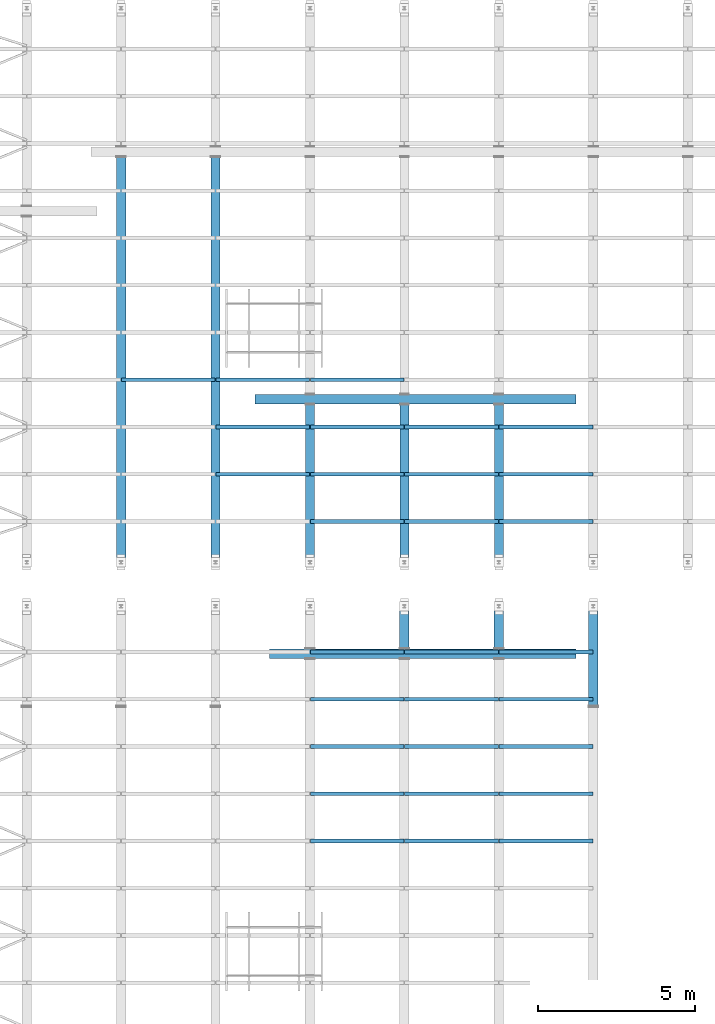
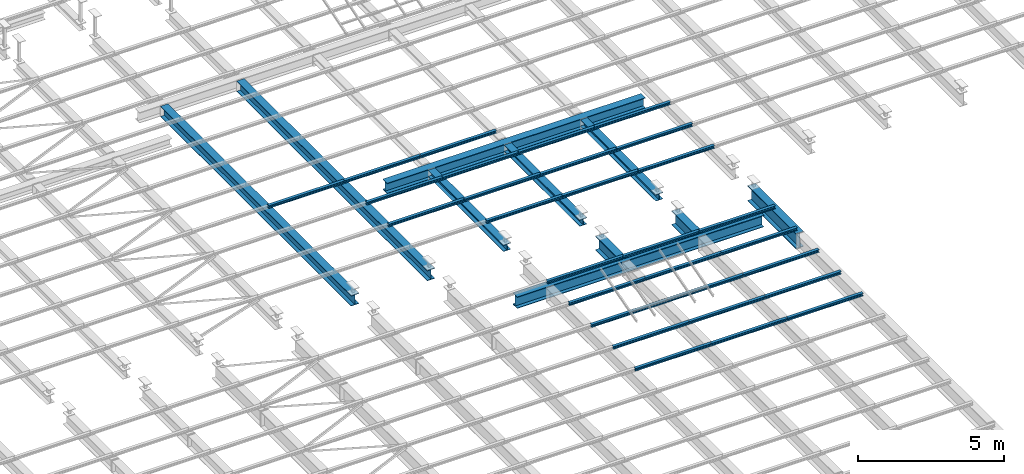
# One storey, part 59 of 139: 39 beams.
"""IFC2X3 building model written with IfcOpenShell, lengths in metres."""

from ifc_helpers import new_model, entity, si_unit, converted_unit, derived_unit, frame, origin, place, context, subcontext, project, spatial, polyline, outline, extrude, material, element, save


model = new_model("IFC2X3")

# Units and contexts
model_context = context("Model", 3, precision=1e-05, world=origin())
body_context = subcontext(model_context, "Body", "Model", "MODEL_VIEW")
ifc_project = project(units=[si_unit("LENGTHUNIT", "METRE"), si_unit("AREAUNIT", "SQUARE_METRE"), si_unit("VOLUMEUNIT", "CUBIC_METRE"), si_unit("MASSUNIT", "GRAM", prefix="KILO"), converted_unit("PLANEANGLEUNIT", "DEGREE", entity("IfcPlaneAngleMeasure", 0.0174532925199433), si_unit("PLANEANGLEUNIT", "RADIAN"), dimensions=[0, 0, 0, 0, 0, 0, 0]), derived_unit("THERMALTRANSMITTANCEUNIT", [(si_unit("POWERUNIT", "WATT"), 1), (si_unit("THERMODYNAMICTEMPERATUREUNIT", "KELVIN"), -1), (si_unit("LENGTHUNIT", "METRE"), -2)]), derived_unit("VOLUMETRICFLOWRATEUNIT", [(si_unit("LENGTHUNIT", "METRE"), 3), (converted_unit("TIMEUNIT", "hour", entity("IfcTimeMeasure", 3600.0), si_unit("TIMEUNIT", "SECOND"), dimensions=[0, 0, 1, 0, 0, 0, 0]), -1), (si_unit("LENGTHUNIT", "METRE"), -1)])], contexts=[model_context])

# Site, building, storey
site_placement = place(None, origin())
site = spatial("IfcSite", under=ifc_project, at=site_placement, Name="TWP_Speiseverteilzentrum SBW VZ II", CompositionType="ELEMENT")
building_placement = place(site_placement, origin())
building = spatial("IfcBuilding", under=site, at=building_placement, Name="Speiseverteilzentrum SBW VZ II", CompositionType="ELEMENT")
storey_placement = place(building_placement, frame((0.0, 0.0, 7.1307)))
storey = spatial("IfcBuildingStorey", under=building, at=storey_placement, Name="Wartung_FFB", CompositionType="ELEMENT", Elevation=7.1307)

# Beams
ifc_material_1 = material(Name="S235")
beam_1_placement = place(storey_placement, frame((56.7712471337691, 49.399720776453, -0.435), z_axis=(0.0, 0.0, 1.0), x_axis=(-1.22464679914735e-16, -1.0, 0.0)))
element("IfcBeam", 1, at=beam_1_placement, inside=storey, material=ifc_material_1, Name="Stahlträger", context=body_context, shape_type="SweptSolid", body=[
    extrude(outline(polyline([(-0.15, 0.245), (-0.15, 0.222), (-0.00599999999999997, 0.222), (-0.006, -0.222), (-0.15, -0.222), (-0.15, -0.245), (0.15, -0.245), (0.15, -0.222), (0.00600000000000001, -0.222), (0.00600000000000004, 0.222), (0.15, 0.222), (0.15, 0.245), (-0.15, 0.245)])), frame((0.0, 0.0, 0.0), z_axis=(0.0, 1.0, 0.0), x_axis=(-1.0, 0.0, 0.0)), (0.0, 0.0, 1.0), 9.72821238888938),
])
ifc_material_2 = material(Name="S235")
beam_2_placement = place(storey_placement, frame((56.3094595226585, 57.4796420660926, -0.41), z_axis=(0.0, 0.0, 1.0), x_axis=(-1.22464679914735e-16, -1.0, 0.0)))
element("IfcBeam", 2, at=beam_2_placement, inside=storey, material=ifc_material_2, Name="Stahlträger", context=body_context, shape_type="SweptSolid", body=[
    extrude(outline(polyline([(-0.15, 0.22), (-0.15, 0.199), (-0.00574999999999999, 0.199), (-0.00575000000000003, -0.199), (-0.15, -0.199), (-0.15, -0.22), (0.15, -0.22), (0.15, -0.199), (0.00574999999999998, -0.199), (0.00575000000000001, 0.199), (0.15, 0.199), (0.15, 0.22), (-0.15, 0.22)])), frame((0.0, 0.0, 0.0), z_axis=(0.0, 1.0, 0.0), x_axis=(-1.0, 0.0, 0.0)), (0.0, 0.0, 1.0), 10.19),
])
ifc_material_3 = material(Name="S235")
beam_3_placement = place(storey_placement, frame((52.0500000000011, 52.1500000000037, -0.41), z_axis=(0.0, 0.0, 1.0), x_axis=(1.0, -2.44929359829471e-16, 0.0)))
element("IfcBeam", 3, at=beam_3_placement, inside=storey, material=ifc_material_3, Name="Stahlträger", context=body_context, shape_type="SweptSolid", body=[
    extrude(outline(polyline([(-0.15, 0.22), (-0.15, 0.199), (-0.00574999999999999, 0.199), (-0.00575000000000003, -0.199), (-0.15, -0.199), (-0.15, -0.22), (0.15, -0.22), (0.15, -0.199), (0.00574999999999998, -0.199), (0.00575000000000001, 0.199), (0.15, 0.199), (0.15, 0.22), (-0.15, 0.22)])), frame((0.0, 0.0, 0.0), z_axis=(0.0, 1.0, 0.0), x_axis=(-1.0, 0.0, 0.0)), (0.0, 0.0, 1.0), 13.0195685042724),
])
ifc_material_4 = material(Name="S235")
beam_4_placement = place(storey_placement, frame((55.0500000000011, 52.1500000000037, -0.41), z_axis=(0.0, 0.0, 1.0), x_axis=(1.0, -2.44929359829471e-16, 0.0)))
element("IfcBeam", 4, at=beam_4_placement, inside=storey, material=ifc_material_4, Name="Stahlträger", context=body_context, shape_type="SweptSolid", body=[
    extrude(outline(polyline([(-0.15, 0.22), (-0.15, 0.199), (-0.00574999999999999, 0.199), (-0.00575000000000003, -0.199), (-0.15, -0.199), (-0.15, -0.22), (0.15, -0.22), (0.15, -0.199), (0.00574999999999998, -0.199), (0.00575000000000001, 0.199), (0.15, 0.199), (0.15, 0.22), (-0.15, 0.22)])), frame((0.0, 0.0, 0.0), z_axis=(0.0, 1.0, 0.0), x_axis=(-1.0, 0.0, 0.0)), (0.0, 0.0, 1.0), 13.0195685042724),
])
ifc_material_5 = material(Name="S235")
beam_5_placement = place(storey_placement, frame((58.0500000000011, 57.3046420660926, -0.325), z_axis=(0.0, 0.0, 1.0), x_axis=(-1.0, 0.0, 0.0)))
element("IfcBeam", 5, at=beam_5_placement, inside=storey, material=ifc_material_5, Name="Stahlträger", context=body_context, shape_type="SweptSolid", body=[
    extrude(outline(polyline([(-0.14, 0.135), (-0.14, 0.122), (-0.00400000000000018, 0.122), (-0.00400000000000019, -0.122), (-0.14, -0.122), (-0.14, -0.135), (0.14, -0.135), (0.14, -0.122), (0.00399999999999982, -0.122), (0.00399999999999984, 0.122), (0.14, 0.122), (0.14, 0.135), (-0.14, 0.135)])), frame((0.0, 0.0, 0.0), z_axis=(0.0, 1.0, 0.0), x_axis=(-1.0, 0.0, 0.0)), (0.0, 0.0, 1.0), 5.15464206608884),
])
ifc_material_6 = material(Name="S235")
beam_6_placement = place(storey_placement, frame((61.0500000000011, 57.3046420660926, -0.325), z_axis=(0.0, 0.0, 1.0), x_axis=(-1.0, 0.0, 0.0)))
element("IfcBeam", 6, at=beam_6_placement, inside=storey, material=ifc_material_6, Name="Stahlträger", context=body_context, shape_type="SweptSolid", body=[
    extrude(outline(polyline([(-0.14, 0.135), (-0.14, 0.122), (-0.00400000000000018, 0.122), (-0.00400000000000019, -0.122), (-0.14, -0.122), (-0.14, -0.135), (0.14, -0.135), (0.14, -0.122), (0.00399999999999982, -0.122), (0.00399999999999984, 0.122), (0.14, 0.122), (0.14, 0.135), (-0.14, 0.135)])), frame((0.0, 0.0, 0.0), z_axis=(0.0, 1.0, 0.0), x_axis=(-1.0, 0.0, 0.0)), (0.0, 0.0, 1.0), 5.15464206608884),
])
ifc_material_7 = material(Name="S235")
beam_7_placement = place(storey_placement, frame((64.0500000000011, 57.3046420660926, -0.325), z_axis=(0.0, 0.0, 1.0), x_axis=(-1.0, 0.0, 0.0)))
element("IfcBeam", 7, at=beam_7_placement, inside=storey, material=ifc_material_7, Name="Stahlträger", context=body_context, shape_type="SweptSolid", body=[
    extrude(outline(polyline([(-0.14, 0.135), (-0.14, 0.122), (-0.00400000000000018, 0.122), (-0.00400000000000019, -0.122), (-0.14, -0.122), (-0.14, -0.135), (0.14, -0.135), (0.14, -0.122), (0.00399999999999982, -0.122), (0.00399999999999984, 0.122), (0.14, 0.122), (0.14, 0.135), (-0.14, 0.135)])), frame((0.0, 0.0, 0.0), z_axis=(0.0, 1.0, 0.0), x_axis=(-1.0, 0.0, 0.0)), (0.0, 0.0, 1.0), 5.15464206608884),
])
ifc_material_8 = material(Name="S235")
beam_8_placement = place(storey_placement, frame((67.0500000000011, 51.0500000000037, -0.51), z_axis=(0.0, 0.0, 1.0), x_axis=(-1.0, 0.0, 0.0)))
element("IfcBeam", 8, at=beam_8_placement, inside=storey, material=ifc_material_8, Name="Stahlträger", context=body_context, shape_type="SweptSolid", body=[
    extrude(outline(polyline([(-0.15, 0.32), (-0.15, 0.294), (-0.00675000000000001, 0.294), (-0.00675000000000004, -0.294), (-0.15, -0.294), (-0.15, -0.32), (0.15, -0.32), (0.15, -0.294), (0.00674999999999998, -0.294), (0.00675000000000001, 0.294), (0.15, 0.294), (0.15, 0.32), (-0.15, 0.32)])), frame((0.0, 0.0, 0.0), z_axis=(0.0, 1.0, 0.0), x_axis=(-1.0, 0.0, 0.0)), (0.0, 0.0, 1.0), 3.2979257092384),
])
ifc_material_9 = material(Name="S235")
beam_9_placement = place(storey_placement, frame((61.0500000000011, 51.0500000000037, -0.485), z_axis=(0.0, 0.0, 1.0), x_axis=(-1.0, 0.0, 0.0)))
element("IfcBeam", 9, at=beam_9_placement, inside=storey, material=ifc_material_9, Name="Stahlträger", context=body_context, shape_type="SweptSolid", body=[
    extrude(outline(polyline([(-0.15, 0.295), (-0.15, 0.27), (-0.0065, 0.27), (-0.00650000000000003, -0.27), (-0.15, -0.27), (-0.15, -0.295), (0.15, -0.295), (0.15, -0.27), (0.00649999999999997, -0.27), (0.00650000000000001, 0.27), (0.15, 0.27), (0.15, 0.295), (-0.15, 0.295)])), frame((0.0, 0.0, 0.0), z_axis=(0.0, 1.0, 0.0), x_axis=(-1.0, 0.0, 0.0)), (0.0, 0.0, 1.0), 1.47527922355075),
])
ifc_material_10 = material(Name="S235")
beam_10_placement = place(storey_placement, frame((64.0500000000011, 51.0500000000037, -0.485), z_axis=(0.0, 0.0, 1.0), x_axis=(-1.0, 0.0, 0.0)))
element("IfcBeam", 10, at=beam_10_placement, inside=storey, material=ifc_material_10, Name="Stahlträger", context=body_context, shape_type="SweptSolid", body=[
    extrude(outline(polyline([(-0.15, 0.295), (-0.15, 0.27), (-0.0065, 0.27), (-0.00650000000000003, -0.27), (-0.15, -0.27), (-0.15, -0.295), (0.15, -0.295), (0.15, -0.27), (0.00649999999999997, -0.27), (0.00650000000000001, 0.27), (0.15, 0.27), (0.15, 0.295), (-0.15, 0.295)])), frame((0.0, 0.0, 0.0), z_axis=(0.0, 1.0, 0.0), x_axis=(-1.0, 0.0, 0.0)), (0.0, 0.0, 1.0), 1.47527922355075),
])
ifc_material_11 = material(Name="S235")
beam_11_placement = place(storey_placement, frame((52.0600000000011, 58.1011263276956, -0.133), z_axis=(0.0, 0.0, 1.0), x_axis=(0.0, -1.0, 0.0)))
element("IfcBeam", 11, at=beam_11_placement, inside=storey, material=ifc_material_11, Name="Nebenträger", context=body_context, shape_type="SweptSolid", body=[
    extrude(outline(polyline([(-0.06, 0.0570000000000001), (-0.06, 0.0490000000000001), (-0.00249999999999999, 0.0490000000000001), (-0.0025, -0.0489999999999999), (-0.06, -0.0489999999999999), (-0.06, -0.0569999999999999), (0.06, -0.0569999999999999), (0.06, -0.0489999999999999), (0.0025, -0.0489999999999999), (0.00250000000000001, 0.0490000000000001), (0.06, 0.0490000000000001), (0.06, 0.0570000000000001), (-0.06, 0.0570000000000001)])), frame((0.0, 0.0, 0.0), z_axis=(0.0, 1.0, 0.0), x_axis=(-1.0, 0.0, 0.0)), (0.0, 0.0, 1.0), 2.98),
])
ifc_material_12 = material(Name="S235")
beam_12_placement = place(storey_placement, frame((55.0600000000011, 58.1011263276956, -0.133), z_axis=(0.0, 0.0, 1.0), x_axis=(0.0, -1.0, 0.0)))
element("IfcBeam", 12, at=beam_12_placement, inside=storey, material=ifc_material_12, Name="Nebenträger", context=body_context, shape_type="SweptSolid", body=[
    extrude(outline(polyline([(-0.06, 0.0570000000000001), (-0.06, 0.0490000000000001), (-0.00249999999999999, 0.0490000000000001), (-0.0025, -0.0489999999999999), (-0.06, -0.0489999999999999), (-0.06, -0.0569999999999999), (0.06, -0.0569999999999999), (0.06, -0.0489999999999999), (0.0025, -0.0489999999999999), (0.00250000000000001, 0.0490000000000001), (0.06, 0.0490000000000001), (0.06, 0.0570000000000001), (-0.06, 0.0570000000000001)])), frame((0.0, 0.0, 0.0), z_axis=(0.0, 1.0, 0.0), x_axis=(-1.0, 0.0, 0.0)), (0.0, 0.0, 1.0), 2.98),
])
ifc_material_13 = material(Name="S235")
beam_13_placement = place(storey_placement, frame((58.0600000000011, 58.1011263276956, -0.133), z_axis=(0.0, 0.0, 1.0), x_axis=(0.0, -1.0, 0.0)))
element("IfcBeam", 13, at=beam_13_placement, inside=storey, material=ifc_material_13, Name="Nebenträger", context=body_context, shape_type="SweptSolid", body=[
    extrude(outline(polyline([(-0.06, 0.0570000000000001), (-0.06, 0.0490000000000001), (-0.00249999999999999, 0.0490000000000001), (-0.0025, -0.0489999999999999), (-0.06, -0.0489999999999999), (-0.06, -0.0569999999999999), (0.06, -0.0569999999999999), (0.06, -0.0489999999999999), (0.0025, -0.0489999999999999), (0.00250000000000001, 0.0490000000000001), (0.06, 0.0490000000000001), (0.06, 0.0570000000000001), (-0.06, 0.0570000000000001)])), frame((0.0, 0.0, 0.0), z_axis=(0.0, 1.0, 0.0), x_axis=(-1.0, 0.0, 0.0)), (0.0, 0.0, 1.0), 2.98),
])
ifc_material_14 = material(Name="S235")
beam_14_placement = place(storey_placement, frame((64.0600000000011, 56.6011263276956, -0.133), z_axis=(0.0, 0.0, 1.0), x_axis=(0.0, -1.0, 0.0)))
element("IfcBeam", 14, at=beam_14_placement, inside=storey, material=ifc_material_14, Name="Nebenträger", context=body_context, shape_type="SweptSolid", body=[
    extrude(outline(polyline([(-0.06, 0.0570000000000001), (-0.06, 0.0490000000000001), (-0.00249999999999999, 0.0490000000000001), (-0.0025, -0.0489999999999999), (-0.06, -0.0489999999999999), (-0.06, -0.0569999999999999), (0.06, -0.0569999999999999), (0.06, -0.0489999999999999), (0.0025, -0.0489999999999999), (0.00250000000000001, 0.0490000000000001), (0.06, 0.0490000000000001), (0.06, 0.0570000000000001), (-0.06, 0.0570000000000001)])), frame((0.0, 0.0, 0.0), z_axis=(0.0, 1.0, 0.0), x_axis=(-1.0, 0.0, 0.0)), (0.0, 0.0, 1.0), 2.98000000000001),
])
ifc_material_15 = material(Name="S235")
beam_15_placement = place(storey_placement, frame((55.0600000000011, 56.6011263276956, -0.133), z_axis=(0.0, 0.0, 1.0), x_axis=(0.0, -1.0, 0.0)))
element("IfcBeam", 15, at=beam_15_placement, inside=storey, material=ifc_material_15, Name="Nebenträger", context=body_context, shape_type="SweptSolid", body=[
    extrude(outline(polyline([(-0.06, 0.0570000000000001), (-0.06, 0.0490000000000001), (-0.00249999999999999, 0.0490000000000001), (-0.0025, -0.0489999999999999), (-0.06, -0.0489999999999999), (-0.06, -0.0569999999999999), (0.06, -0.0569999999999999), (0.06, -0.0489999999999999), (0.0025, -0.0489999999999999), (0.00250000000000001, 0.0490000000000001), (0.06, 0.0490000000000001), (0.06, 0.0570000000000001), (-0.06, 0.0570000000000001)])), frame((0.0, 0.0, 0.0), z_axis=(0.0, 1.0, 0.0), x_axis=(-1.0, 0.0, 0.0)), (0.0, 0.0, 1.0), 2.98),
])
ifc_material_16 = material(Name="S235")
beam_16_placement = place(storey_placement, frame((58.0600000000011, 56.6011263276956, -0.133), z_axis=(0.0, 0.0, 1.0), x_axis=(0.0, -1.0, 0.0)))
element("IfcBeam", 16, at=beam_16_placement, inside=storey, material=ifc_material_16, Name="Nebenträger", context=body_context, shape_type="SweptSolid", body=[
    extrude(outline(polyline([(-0.06, 0.0570000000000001), (-0.06, 0.0490000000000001), (-0.00249999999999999, 0.0490000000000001), (-0.0025, -0.0489999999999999), (-0.06, -0.0489999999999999), (-0.06, -0.0569999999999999), (0.06, -0.0569999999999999), (0.06, -0.0489999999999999), (0.0025, -0.0489999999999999), (0.00250000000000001, 0.0490000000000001), (0.06, 0.0490000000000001), (0.06, 0.0570000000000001), (-0.06, 0.0570000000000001)])), frame((0.0, 0.0, 0.0), z_axis=(0.0, 1.0, 0.0), x_axis=(-1.0, 0.0, 0.0)), (0.0, 0.0, 1.0), 2.98),
])
ifc_material_17 = material(Name="S235")
beam_17_placement = place(storey_placement, frame((61.0600000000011, 56.6011263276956, -0.133), z_axis=(0.0, 0.0, 1.0), x_axis=(0.0, -1.0, 0.0)))
element("IfcBeam", 17, at=beam_17_placement, inside=storey, material=ifc_material_17, Name="Nebenträger", context=body_context, shape_type="SweptSolid", body=[
    extrude(outline(polyline([(-0.06, 0.0570000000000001), (-0.06, 0.0490000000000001), (-0.00249999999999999, 0.0490000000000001), (-0.0025, -0.0489999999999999), (-0.06, -0.0489999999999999), (-0.06, -0.0569999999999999), (0.06, -0.0569999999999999), (0.06, -0.0489999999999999), (0.0025, -0.0489999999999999), (0.00250000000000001, 0.0490000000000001), (0.06, 0.0490000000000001), (0.06, 0.0570000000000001), (-0.06, 0.0570000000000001)])), frame((0.0, 0.0, 0.0), z_axis=(0.0, 1.0, 0.0), x_axis=(-1.0, 0.0, 0.0)), (0.0, 0.0, 1.0), 2.98),
])
ifc_material_18 = material(Name="S235")
beam_18_placement = place(storey_placement, frame((64.0600000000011, 55.1011263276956, -0.133), z_axis=(0.0, 0.0, 1.0), x_axis=(0.0, -1.0, 0.0)))
element("IfcBeam", 18, at=beam_18_placement, inside=storey, material=ifc_material_18, Name="Nebenträger", context=body_context, shape_type="SweptSolid", body=[
    extrude(outline(polyline([(-0.06, 0.0570000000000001), (-0.06, 0.0490000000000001), (-0.00249999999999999, 0.0490000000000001), (-0.0025, -0.0489999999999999), (-0.06, -0.0489999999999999), (-0.06, -0.0569999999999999), (0.06, -0.0569999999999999), (0.06, -0.0489999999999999), (0.0025, -0.0489999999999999), (0.00250000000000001, 0.0490000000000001), (0.06, 0.0490000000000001), (0.06, 0.0570000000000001), (-0.06, 0.0570000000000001)])), frame((0.0, 0.0, 0.0), z_axis=(0.0, 1.0, 0.0), x_axis=(-1.0, 0.0, 0.0)), (0.0, 0.0, 1.0), 2.98000000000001),
])
ifc_material_19 = material(Name="S235")
beam_19_placement = place(storey_placement, frame((55.0600000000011, 55.1011263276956, -0.133), z_axis=(0.0, 0.0, 1.0), x_axis=(0.0, -1.0, 0.0)))
element("IfcBeam", 19, at=beam_19_placement, inside=storey, material=ifc_material_19, Name="Nebenträger", context=body_context, shape_type="SweptSolid", body=[
    extrude(outline(polyline([(-0.06, 0.0570000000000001), (-0.06, 0.0490000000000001), (-0.00249999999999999, 0.0490000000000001), (-0.0025, -0.0489999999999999), (-0.06, -0.0489999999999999), (-0.06, -0.0569999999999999), (0.06, -0.0569999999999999), (0.06, -0.0489999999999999), (0.0025, -0.0489999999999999), (0.00250000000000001, 0.0490000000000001), (0.06, 0.0490000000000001), (0.06, 0.0570000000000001), (-0.06, 0.0570000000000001)])), frame((0.0, 0.0, 0.0), z_axis=(0.0, 1.0, 0.0), x_axis=(-1.0, 0.0, 0.0)), (0.0, 0.0, 1.0), 2.98),
])
ifc_material_20 = material(Name="S235")
beam_20_placement = place(storey_placement, frame((58.0600000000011, 55.1011263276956, -0.133), z_axis=(0.0, 0.0, 1.0), x_axis=(0.0, -1.0, 0.0)))
element("IfcBeam", 20, at=beam_20_placement, inside=storey, material=ifc_material_20, Name="Nebenträger", context=body_context, shape_type="SweptSolid", body=[
    extrude(outline(polyline([(-0.06, 0.0570000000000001), (-0.06, 0.0490000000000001), (-0.00249999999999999, 0.0490000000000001), (-0.0025, -0.0489999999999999), (-0.06, -0.0489999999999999), (-0.06, -0.0569999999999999), (0.06, -0.0569999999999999), (0.06, -0.0489999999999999), (0.0025, -0.0489999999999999), (0.00250000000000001, 0.0490000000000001), (0.06, 0.0490000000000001), (0.06, 0.0570000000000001), (-0.06, 0.0570000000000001)])), frame((0.0, 0.0, 0.0), z_axis=(0.0, 1.0, 0.0), x_axis=(-1.0, 0.0, 0.0)), (0.0, 0.0, 1.0), 2.98),
])
ifc_material_21 = material(Name="S235")
beam_21_placement = place(storey_placement, frame((61.0600000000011, 55.1011263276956, -0.133), z_axis=(0.0, 0.0, 1.0), x_axis=(0.0, -1.0, 0.0)))
element("IfcBeam", 21, at=beam_21_placement, inside=storey, material=ifc_material_21, Name="Nebenträger", context=body_context, shape_type="SweptSolid", body=[
    extrude(outline(polyline([(-0.06, 0.0570000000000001), (-0.06, 0.0490000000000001), (-0.00249999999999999, 0.0490000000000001), (-0.0025, -0.0489999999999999), (-0.06, -0.0489999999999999), (-0.06, -0.0569999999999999), (0.06, -0.0569999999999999), (0.06, -0.0489999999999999), (0.0025, -0.0489999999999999), (0.00250000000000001, 0.0490000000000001), (0.06, 0.0490000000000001), (0.06, 0.0570000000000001), (-0.06, 0.0570000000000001)])), frame((0.0, 0.0, 0.0), z_axis=(0.0, 1.0, 0.0), x_axis=(-1.0, 0.0, 0.0)), (0.0, 0.0, 1.0), 2.98),
])
ifc_material_22 = material(Name="S235")
beam_22_placement = place(storey_placement, frame((64.0600000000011, 53.6011263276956, -0.133), z_axis=(0.0, 0.0, 1.0), x_axis=(0.0, -1.0, 0.0)))
element("IfcBeam", 22, at=beam_22_placement, inside=storey, material=ifc_material_22, Name="Nebenträger", context=body_context, shape_type="SweptSolid", body=[
    extrude(outline(polyline([(-0.06, 0.0570000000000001), (-0.06, 0.0490000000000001), (-0.00249999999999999, 0.0490000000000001), (-0.0025, -0.0489999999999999), (-0.06, -0.0489999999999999), (-0.06, -0.0569999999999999), (0.06, -0.0569999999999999), (0.06, -0.0489999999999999), (0.0025, -0.0489999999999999), (0.00250000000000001, 0.0490000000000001), (0.06, 0.0490000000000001), (0.06, 0.0570000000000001), (-0.06, 0.0570000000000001)])), frame((0.0, 0.0, 0.0), z_axis=(0.0, 1.0, 0.0), x_axis=(-1.0, 0.0, 0.0)), (0.0, 0.0, 1.0), 2.98000000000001),
])
ifc_material_23 = material(Name="S235")
beam_23_placement = place(storey_placement, frame((58.0600000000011, 53.6011263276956, -0.133), z_axis=(0.0, 0.0, 1.0), x_axis=(0.0, -1.0, 0.0)))
element("IfcBeam", 23, at=beam_23_placement, inside=storey, material=ifc_material_23, Name="Nebenträger", context=body_context, shape_type="SweptSolid", body=[
    extrude(outline(polyline([(-0.06, 0.0570000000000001), (-0.06, 0.0490000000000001), (-0.00249999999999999, 0.0490000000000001), (-0.0025, -0.0489999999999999), (-0.06, -0.0489999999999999), (-0.06, -0.0569999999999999), (0.06, -0.0569999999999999), (0.06, -0.0489999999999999), (0.0025, -0.0489999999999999), (0.00250000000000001, 0.0490000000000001), (0.06, 0.0490000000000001), (0.06, 0.0570000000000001), (-0.06, 0.0570000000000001)])), frame((0.0, 0.0, 0.0), z_axis=(0.0, 1.0, 0.0), x_axis=(-1.0, 0.0, 0.0)), (0.0, 0.0, 1.0), 2.98),
])
ifc_material_24 = material(Name="S235")
beam_24_placement = place(storey_placement, frame((61.0600000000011, 53.6011263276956, -0.133), z_axis=(0.0, 0.0, 1.0), x_axis=(0.0, -1.0, 0.0)))
element("IfcBeam", 24, at=beam_24_placement, inside=storey, material=ifc_material_24, Name="Nebenträger", context=body_context, shape_type="SweptSolid", body=[
    extrude(outline(polyline([(-0.06, 0.0570000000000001), (-0.06, 0.0490000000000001), (-0.00249999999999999, 0.0490000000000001), (-0.0025, -0.0489999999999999), (-0.06, -0.0489999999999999), (-0.06, -0.0569999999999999), (0.06, -0.0569999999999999), (0.06, -0.0489999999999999), (0.0025, -0.0489999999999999), (0.00250000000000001, 0.0490000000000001), (0.06, 0.0490000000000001), (0.06, 0.0570000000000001), (-0.06, 0.0570000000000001)])), frame((0.0, 0.0, 0.0), z_axis=(0.0, 1.0, 0.0), x_axis=(-1.0, 0.0, 0.0)), (0.0, 0.0, 1.0), 2.98),
])
ifc_material_25 = material(Name="S235")
beam_25_placement = place(storey_placement, frame((64.0600000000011, 49.4500000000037, -0.133), z_axis=(0.0, 0.0, 1.0), x_axis=(0.0, -1.0, 0.0)))
element("IfcBeam", 25, at=beam_25_placement, inside=storey, material=ifc_material_25, Name="Nebenträger", context=body_context, shape_type="SweptSolid", body=[
    extrude(outline(polyline([(-0.06, 0.0570000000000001), (-0.06, 0.0490000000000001), (-0.00249999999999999, 0.0490000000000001), (-0.0025, -0.0489999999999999), (-0.06, -0.0489999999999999), (-0.06, -0.0569999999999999), (0.06, -0.0569999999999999), (0.06, -0.0489999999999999), (0.0025, -0.0489999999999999), (0.00250000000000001, 0.0490000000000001), (0.06, 0.0490000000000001), (0.06, 0.0570000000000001), (-0.06, 0.0570000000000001)])), frame((0.0, 0.0, 0.0), z_axis=(0.0, 1.0, 0.0), x_axis=(-1.0, 0.0, 0.0)), (0.0, 0.0, 1.0), 2.98000000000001),
])
ifc_material_26 = material(Name="S235")
beam_26_placement = place(storey_placement, frame((58.0600000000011, 49.4500000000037, -0.133), z_axis=(0.0, 0.0, 1.0), x_axis=(0.0, -1.0, 0.0)))
element("IfcBeam", 26, at=beam_26_placement, inside=storey, material=ifc_material_26, Name="Nebenträger", context=body_context, shape_type="SweptSolid", body=[
    extrude(outline(polyline([(-0.06, 0.0570000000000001), (-0.06, 0.0490000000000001), (-0.00249999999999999, 0.0490000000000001), (-0.0025, -0.0489999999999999), (-0.06, -0.0489999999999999), (-0.06, -0.0569999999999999), (0.06, -0.0569999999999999), (0.06, -0.0489999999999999), (0.0025, -0.0489999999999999), (0.00250000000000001, 0.0490000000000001), (0.06, 0.0490000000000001), (0.06, 0.0570000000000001), (-0.06, 0.0570000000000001)])), frame((0.0, 0.0, 0.0), z_axis=(0.0, 1.0, 0.0), x_axis=(-1.0, 0.0, 0.0)), (0.0, 0.0, 1.0), 2.98),
])
ifc_material_27 = material(Name="S235")
beam_27_placement = place(storey_placement, frame((61.0600000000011, 49.4500000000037, -0.133), z_axis=(0.0, 0.0, 1.0), x_axis=(0.0, -1.0, 0.0)))
element("IfcBeam", 27, at=beam_27_placement, inside=storey, material=ifc_material_27, Name="Nebenträger", context=body_context, shape_type="SweptSolid", body=[
    extrude(outline(polyline([(-0.06, 0.0570000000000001), (-0.06, 0.0490000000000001), (-0.00249999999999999, 0.0490000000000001), (-0.0025, -0.0489999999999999), (-0.06, -0.0489999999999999), (-0.06, -0.0569999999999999), (0.06, -0.0569999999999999), (0.06, -0.0489999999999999), (0.0025, -0.0489999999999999), (0.00250000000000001, 0.0490000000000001), (0.06, 0.0490000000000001), (0.06, 0.0570000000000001), (-0.06, 0.0570000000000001)])), frame((0.0, 0.0, 0.0), z_axis=(0.0, 1.0, 0.0), x_axis=(-1.0, 0.0, 0.0)), (0.0, 0.0, 1.0), 2.98),
])
ifc_material_28 = material(Name="S235")
beam_28_placement = place(storey_placement, frame((64.0600000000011, 47.9500000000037, -0.133), z_axis=(0.0, 0.0, 1.0), x_axis=(0.0, -1.0, 0.0)))
element("IfcBeam", 28, at=beam_28_placement, inside=storey, material=ifc_material_28, Name="Nebenträger", context=body_context, shape_type="SweptSolid", body=[
    extrude(outline(polyline([(-0.06, 0.0570000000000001), (-0.06, 0.0490000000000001), (-0.00249999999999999, 0.0490000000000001), (-0.0025, -0.0489999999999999), (-0.06, -0.0489999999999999), (-0.06, -0.0569999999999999), (0.06, -0.0569999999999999), (0.06, -0.0489999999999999), (0.0025, -0.0489999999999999), (0.00250000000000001, 0.0490000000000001), (0.06, 0.0490000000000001), (0.06, 0.0570000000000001), (-0.06, 0.0570000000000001)])), frame((0.0, 0.0, 0.0), z_axis=(0.0, 1.0, 0.0), x_axis=(-1.0, 0.0, 0.0)), (0.0, 0.0, 1.0), 2.98000000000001),
])
ifc_material_29 = material(Name="S235")
beam_29_placement = place(storey_placement, frame((58.0600000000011, 47.9500000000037, -0.133), z_axis=(0.0, 0.0, 1.0), x_axis=(0.0, -1.0, 0.0)))
element("IfcBeam", 29, at=beam_29_placement, inside=storey, material=ifc_material_29, Name="Nebenträger", context=body_context, shape_type="SweptSolid", body=[
    extrude(outline(polyline([(-0.06, 0.0570000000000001), (-0.06, 0.0490000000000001), (-0.00249999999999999, 0.0490000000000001), (-0.0025, -0.0489999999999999), (-0.06, -0.0489999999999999), (-0.06, -0.0569999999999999), (0.06, -0.0569999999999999), (0.06, -0.0489999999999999), (0.0025, -0.0489999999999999), (0.00250000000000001, 0.0490000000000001), (0.06, 0.0490000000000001), (0.06, 0.0570000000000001), (-0.06, 0.0570000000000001)])), frame((0.0, 0.0, 0.0), z_axis=(0.0, 1.0, 0.0), x_axis=(-1.0, 0.0, 0.0)), (0.0, 0.0, 1.0), 2.98),
])
ifc_material_30 = material(Name="S235")
beam_30_placement = place(storey_placement, frame((61.0600000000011, 47.9500000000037, -0.133), z_axis=(0.0, 0.0, 1.0), x_axis=(0.0, -1.0, 0.0)))
element("IfcBeam", 30, at=beam_30_placement, inside=storey, material=ifc_material_30, Name="Nebenträger", context=body_context, shape_type="SweptSolid", body=[
    extrude(outline(polyline([(-0.06, 0.0570000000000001), (-0.06, 0.0490000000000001), (-0.00249999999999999, 0.0490000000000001), (-0.0025, -0.0489999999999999), (-0.06, -0.0489999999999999), (-0.06, -0.0569999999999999), (0.06, -0.0569999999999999), (0.06, -0.0489999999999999), (0.0025, -0.0489999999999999), (0.00250000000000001, 0.0490000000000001), (0.06, 0.0490000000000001), (0.06, 0.0570000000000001), (-0.06, 0.0570000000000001)])), frame((0.0, 0.0, 0.0), z_axis=(0.0, 1.0, 0.0), x_axis=(-1.0, 0.0, 0.0)), (0.0, 0.0, 1.0), 2.98),
])
ifc_material_31 = material(Name="S235")
beam_31_placement = place(storey_placement, frame((64.0600000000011, 46.4500000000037, -0.133), z_axis=(0.0, 0.0, 1.0), x_axis=(0.0, -1.0, 0.0)))
element("IfcBeam", 31, at=beam_31_placement, inside=storey, material=ifc_material_31, Name="Nebenträger", context=body_context, shape_type="SweptSolid", body=[
    extrude(outline(polyline([(-0.06, 0.0570000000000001), (-0.06, 0.0490000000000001), (-0.00249999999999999, 0.0490000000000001), (-0.0025, -0.0489999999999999), (-0.06, -0.0489999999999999), (-0.06, -0.0569999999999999), (0.06, -0.0569999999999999), (0.06, -0.0489999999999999), (0.0025, -0.0489999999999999), (0.00250000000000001, 0.0490000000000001), (0.06, 0.0490000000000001), (0.06, 0.0570000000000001), (-0.06, 0.0570000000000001)])), frame((0.0, 0.0, 0.0), z_axis=(0.0, 1.0, 0.0), x_axis=(-1.0, 0.0, 0.0)), (0.0, 0.0, 1.0), 2.98000000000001),
])
ifc_material_32 = material(Name="S235")
beam_32_placement = place(storey_placement, frame((58.0600000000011, 46.4500000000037, -0.133), z_axis=(0.0, 0.0, 1.0), x_axis=(0.0, -1.0, 0.0)))
element("IfcBeam", 32, at=beam_32_placement, inside=storey, material=ifc_material_32, Name="Nebenträger", context=body_context, shape_type="SweptSolid", body=[
    extrude(outline(polyline([(-0.06, 0.0570000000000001), (-0.06, 0.0490000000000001), (-0.00249999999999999, 0.0490000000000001), (-0.0025, -0.0489999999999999), (-0.06, -0.0489999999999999), (-0.06, -0.0569999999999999), (0.06, -0.0569999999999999), (0.06, -0.0489999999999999), (0.0025, -0.0489999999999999), (0.00250000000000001, 0.0490000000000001), (0.06, 0.0490000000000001), (0.06, 0.0570000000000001), (-0.06, 0.0570000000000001)])), frame((0.0, 0.0, 0.0), z_axis=(0.0, 1.0, 0.0), x_axis=(-1.0, 0.0, 0.0)), (0.0, 0.0, 1.0), 2.98),
])
ifc_material_33 = material(Name="S235")
beam_33_placement = place(storey_placement, frame((61.0600000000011, 46.4500000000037, -0.133), z_axis=(0.0, 0.0, 1.0), x_axis=(0.0, -1.0, 0.0)))
element("IfcBeam", 33, at=beam_33_placement, inside=storey, material=ifc_material_33, Name="Nebenträger", context=body_context, shape_type="SweptSolid", body=[
    extrude(outline(polyline([(-0.06, 0.0570000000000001), (-0.06, 0.0490000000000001), (-0.00249999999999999, 0.0490000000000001), (-0.0025, -0.0489999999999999), (-0.06, -0.0489999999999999), (-0.06, -0.0569999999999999), (0.06, -0.0569999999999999), (0.06, -0.0489999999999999), (0.0025, -0.0489999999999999), (0.00250000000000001, 0.0490000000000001), (0.06, 0.0490000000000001), (0.06, 0.0570000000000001), (-0.06, 0.0570000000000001)])), frame((0.0, 0.0, 0.0), z_axis=(0.0, 1.0, 0.0), x_axis=(-1.0, 0.0, 0.0)), (0.0, 0.0, 1.0), 2.98),
])
ifc_material_34 = material(Name="S235")
beam_34_placement = place(storey_placement, frame((64.0600000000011, 44.9500000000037, -0.133), z_axis=(0.0, 0.0, 1.0), x_axis=(0.0, -1.0, 0.0)))
element("IfcBeam", 34, at=beam_34_placement, inside=storey, material=ifc_material_34, Name="Nebenträger", context=body_context, shape_type="SweptSolid", body=[
    extrude(outline(polyline([(-0.06, 0.0570000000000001), (-0.06, 0.0490000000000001), (-0.00249999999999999, 0.0490000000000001), (-0.0025, -0.0489999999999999), (-0.06, -0.0489999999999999), (-0.06, -0.0569999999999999), (0.06, -0.0569999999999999), (0.06, -0.0489999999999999), (0.0025, -0.0489999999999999), (0.00250000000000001, 0.0490000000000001), (0.06, 0.0490000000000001), (0.06, 0.0570000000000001), (-0.06, 0.0570000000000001)])), frame((0.0, 0.0, 0.0), z_axis=(0.0, 1.0, 0.0), x_axis=(-1.0, 0.0, 0.0)), (0.0, 0.0, 1.0), 2.98000000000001),
])
ifc_material_35 = material(Name="S235")
beam_35_placement = place(storey_placement, frame((58.0600000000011, 44.9500000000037, -0.133), z_axis=(0.0, 0.0, 1.0), x_axis=(0.0, -1.0, 0.0)))
element("IfcBeam", 35, at=beam_35_placement, inside=storey, material=ifc_material_35, Name="Nebenträger", context=body_context, shape_type="SweptSolid", body=[
    extrude(outline(polyline([(-0.06, 0.0570000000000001), (-0.06, 0.0490000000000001), (-0.00249999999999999, 0.0490000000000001), (-0.0025, -0.0489999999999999), (-0.06, -0.0489999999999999), (-0.06, -0.0569999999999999), (0.06, -0.0569999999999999), (0.06, -0.0489999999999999), (0.0025, -0.0489999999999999), (0.00250000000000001, 0.0490000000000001), (0.06, 0.0490000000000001), (0.06, 0.0570000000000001), (-0.06, 0.0570000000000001)])), frame((0.0, 0.0, 0.0), z_axis=(0.0, 1.0, 0.0), x_axis=(-1.0, 0.0, 0.0)), (0.0, 0.0, 1.0), 2.98),
])
ifc_material_36 = material(Name="S235")
beam_36_placement = place(storey_placement, frame((61.0600000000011, 44.9500000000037, -0.133), z_axis=(0.0, 0.0, 1.0), x_axis=(0.0, -1.0, 0.0)))
element("IfcBeam", 36, at=beam_36_placement, inside=storey, material=ifc_material_36, Name="Nebenträger", context=body_context, shape_type="SweptSolid", body=[
    extrude(outline(polyline([(-0.06, 0.0570000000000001), (-0.06, 0.0490000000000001), (-0.00249999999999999, 0.0490000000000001), (-0.0025, -0.0489999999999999), (-0.06, -0.0489999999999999), (-0.06, -0.0569999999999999), (0.06, -0.0569999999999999), (0.06, -0.0489999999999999), (0.0025, -0.0489999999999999), (0.00250000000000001, 0.0490000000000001), (0.06, 0.0490000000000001), (0.06, 0.0570000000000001), (-0.06, 0.0570000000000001)])), frame((0.0, 0.0, 0.0), z_axis=(0.0, 1.0, 0.0), x_axis=(-1.0, 0.0, 0.0)), (0.0, 0.0, 1.0), 2.98),
])
ifc_material_37 = material(Name="S235")
beam_37_placement = place(storey_placement, frame((64.0600000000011, 43.4500000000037, -0.133), z_axis=(0.0, 0.0, 1.0), x_axis=(0.0, -1.0, 0.0)))
element("IfcBeam", 37, at=beam_37_placement, inside=storey, material=ifc_material_37, Name="Nebenträger", context=body_context, shape_type="SweptSolid", body=[
    extrude(outline(polyline([(-0.06, 0.0570000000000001), (-0.06, 0.0490000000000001), (-0.00249999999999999, 0.0490000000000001), (-0.0025, -0.0489999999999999), (-0.06, -0.0489999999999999), (-0.06, -0.0569999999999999), (0.06, -0.0569999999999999), (0.06, -0.0489999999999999), (0.0025, -0.0489999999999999), (0.00250000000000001, 0.0490000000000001), (0.06, 0.0490000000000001), (0.06, 0.0570000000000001), (-0.06, 0.0570000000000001)])), frame((0.0, 0.0, 0.0), z_axis=(0.0, 1.0, 0.0), x_axis=(-1.0, 0.0, 0.0)), (0.0, 0.0, 1.0), 2.98000000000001),
])
ifc_material_38 = material(Name="S235")
beam_38_placement = place(storey_placement, frame((58.0600000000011, 43.4500000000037, -0.133), z_axis=(0.0, 0.0, 1.0), x_axis=(0.0, -1.0, 0.0)))
element("IfcBeam", 38, at=beam_38_placement, inside=storey, material=ifc_material_38, Name="Nebenträger", context=body_context, shape_type="SweptSolid", body=[
    extrude(outline(polyline([(-0.06, 0.0570000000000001), (-0.06, 0.0490000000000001), (-0.00249999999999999, 0.0490000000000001), (-0.0025, -0.0489999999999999), (-0.06, -0.0489999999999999), (-0.06, -0.0569999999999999), (0.06, -0.0569999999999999), (0.06, -0.0489999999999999), (0.0025, -0.0489999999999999), (0.00250000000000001, 0.0490000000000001), (0.06, 0.0490000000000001), (0.06, 0.0570000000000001), (-0.06, 0.0570000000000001)])), frame((0.0, 0.0, 0.0), z_axis=(0.0, 1.0, 0.0), x_axis=(-1.0, 0.0, 0.0)), (0.0, 0.0, 1.0), 2.98),
])
ifc_material_39 = material(Name="S235")
beam_39_placement = place(storey_placement, frame((61.0600000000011, 43.4500000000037, -0.133), z_axis=(0.0, 0.0, 1.0), x_axis=(0.0, -1.0, 0.0)))
element("IfcBeam", 39, at=beam_39_placement, inside=storey, material=ifc_material_39, Name="Nebenträger", context=body_context, shape_type="SweptSolid", body=[
    extrude(outline(polyline([(-0.06, 0.0570000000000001), (-0.06, 0.0490000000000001), (-0.00249999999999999, 0.0490000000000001), (-0.0025, -0.0489999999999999), (-0.06, -0.0489999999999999), (-0.06, -0.0569999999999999), (0.06, -0.0569999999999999), (0.06, -0.0489999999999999), (0.0025, -0.0489999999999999), (0.00250000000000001, 0.0490000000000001), (0.06, 0.0490000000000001), (0.06, 0.0570000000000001), (-0.06, 0.0570000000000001)])), frame((0.0, 0.0, 0.0), z_axis=(0.0, 1.0, 0.0), x_axis=(-1.0, 0.0, 0.0)), (0.0, 0.0, 1.0), 2.98),
])

save(model, "model.ifc")
